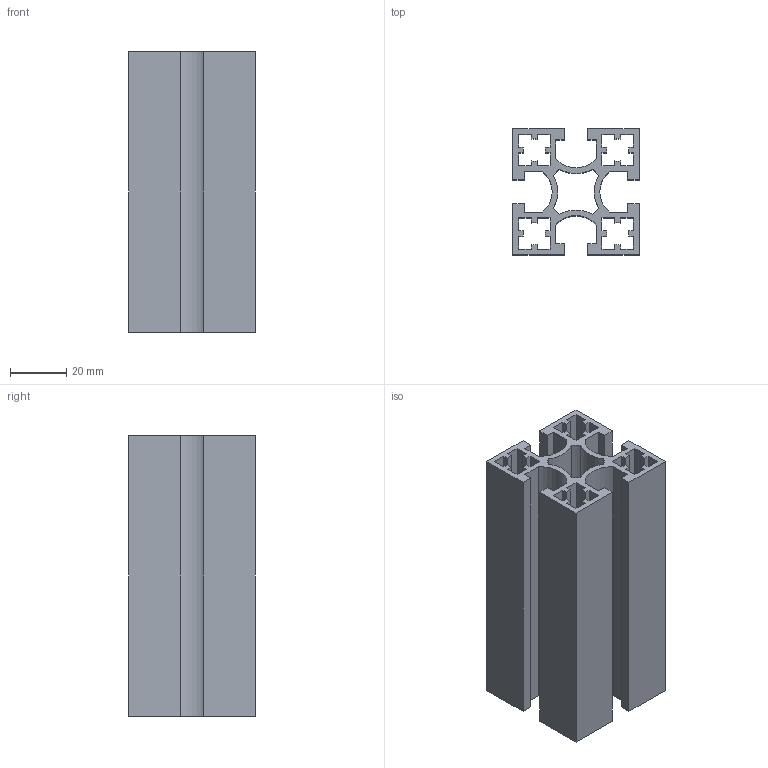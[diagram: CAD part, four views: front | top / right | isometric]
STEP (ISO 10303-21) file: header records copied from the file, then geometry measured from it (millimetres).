
FILE_DESCRIPTION(/* description */ ('Unknown'),/* implementation_level */ '2;1');
FILE_NAME(/* name */ 'NM4545A',/* time_stamp */ '2026-08-31T11:48:02+08:00',/* author */ ('Unknown'),/* organization */ ('Unknown'),/* preprocessor_version */ 'ST-DEVELOPER v16.7',/* originating_system */ 'DEX',/* authorisation */ $);
FILE_SCHEMA (('AUTOMOTIVE_DESIGN {1 0 10303 214 3 1 1}'));
Length unit declared in the file: millimetre
Products named in the file (1): 4545A-
Bounding box: 45 x 45 x 100 mm (x, y, z)
Volume: 71441.6 mm3; surface area: 63452.4 mm2
Topology: 1 solids, 1 shells, 126 faces, 372 edges, 248 vertices
Faces by surface type: plane 98, cylinder 28
Entity records: 4222 total; most frequent: CARTESIAN_POINT 747, ORIENTED_EDGE 744, DIRECTION 682, EDGE_CURVE 372, LINE 316, VECTOR 316, VERTEX_POINT 248, AXIS2_PLACEMENT_3D 183
